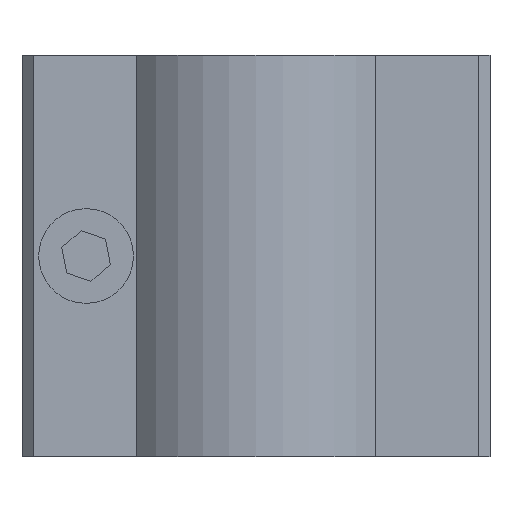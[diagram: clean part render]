
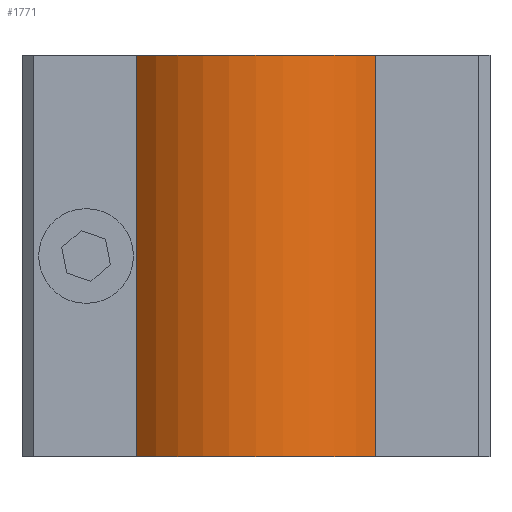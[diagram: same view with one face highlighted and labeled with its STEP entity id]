
A CAD part, front view. The second image highlights one B-rep face of the part: STEP entity #1771.
In plain terms, the highlighted cylindrical face has radius 14 mm (diameter 28 mm), a partial arc.
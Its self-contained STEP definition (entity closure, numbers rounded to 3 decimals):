
#1098=CARTESIAN_POINT('',(-11.433,-4.802,33.0));
#1099=VERTEX_POINT('',#1098);
#1106=CARTESIAN_POINT('',(10.015,-4.802,33.0));
#1107=VERTEX_POINT('',#1106);
#1108=CARTESIAN_POINT('',(-0.709,4.198,33.0));
#1109=DIRECTION('',(0.0,0.0,-1.));
#1110=DIRECTION('',(0.766,0.643,0.0));
#1111=AXIS2_PLACEMENT_3D('',#1108,#1109,#1110);
#1112=CIRCLE('',#1111,14.0);
#1113=EDGE_CURVE('',#1107,#1099,#1112,.T.);
#1666=CARTESIAN_POINT('',(10.015,-4.802,-3.));
#1667=VERTEX_POINT('',#1666);
#1674=CARTESIAN_POINT('',(-11.433,-4.802,-3.));
#1675=VERTEX_POINT('',#1674);
#1676=CARTESIAN_POINT('',(-0.709,4.198,-3.));
#1677=DIRECTION('',(0.0,0.0,1.));
#1678=DIRECTION('',(0.766,0.643,0.0));
#1679=AXIS2_PLACEMENT_3D('',#1676,#1677,#1678);
#1680=CIRCLE('',#1679,14.0);
#1681=EDGE_CURVE('',#1675,#1667,#1680,.T.);
#1744=CARTESIAN_POINT('',(10.015,-4.802,33.0));
#1745=DIRECTION('',(0.0,0.0,-1.0));
#1746=VECTOR('',#1745,36.0);
#1747=LINE('',#1744,#1746);
#1748=EDGE_CURVE('',#1107,#1667,#1747,.T.);
#1755=CARTESIAN_POINT('',(-0.709,4.198,15.0));
#1756=DIRECTION('',(0.0,0.0,1.0));
#1757=DIRECTION('',(0.766,0.643,0.0));
#1758=AXIS2_PLACEMENT_3D('',#1755,#1756,#1757);
#1759=CYLINDRICAL_SURFACE('',#1758,14.);
#1760=ORIENTED_EDGE('',*,*,#1113,.T.);
#1761=CARTESIAN_POINT('',(-11.433,-4.802,33.0));
#1762=DIRECTION('',(0.0,0.0,-1.0));
#1763=VECTOR('',#1762,36.0);
#1764=LINE('',#1761,#1763);
#1765=EDGE_CURVE('',#1099,#1675,#1764,.T.);
#1766=ORIENTED_EDGE('',*,*,#1765,.T.);
#1767=ORIENTED_EDGE('',*,*,#1681,.T.);
#1768=ORIENTED_EDGE('',*,*,#1748,.F.);
#1769=EDGE_LOOP('',(#1760,#1766,#1767,#1768));
#1770=FACE_OUTER_BOUND('',#1769,.T.);
#1771=ADVANCED_FACE('',(#1770),#1759,.T.);
